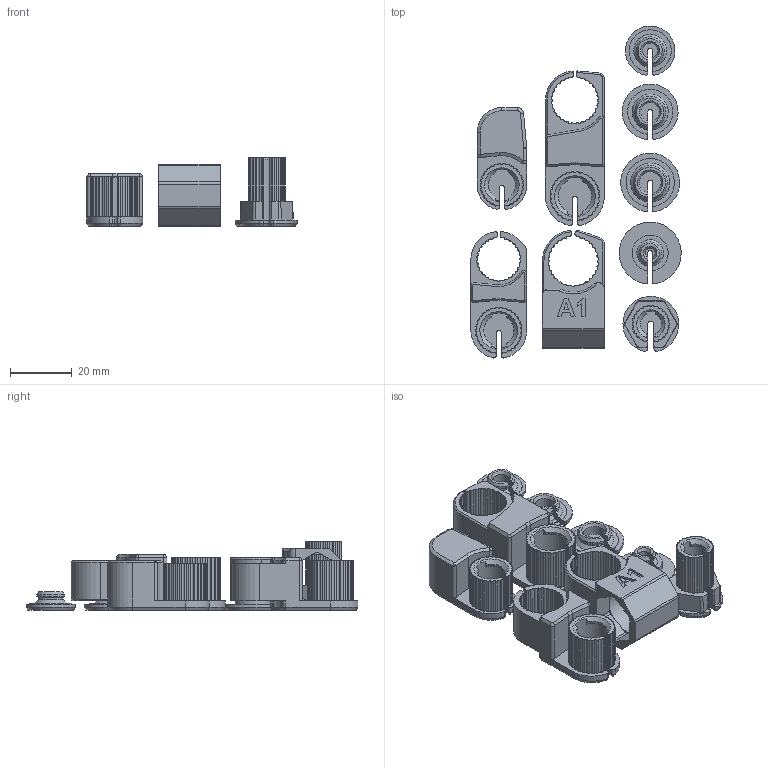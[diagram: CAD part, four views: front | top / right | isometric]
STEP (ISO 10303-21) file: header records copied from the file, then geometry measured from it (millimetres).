
FILE_DESCRIPTION (( 'STEP AP214' ), '1' );
FILE_NAME ('Robot Hand Finger A.STEP', '2024-06-24T13:49:49', ( '' ), ( '' ), 'SwSTEP 2.0', 'SolidWorks 2021', '' );
FILE_SCHEMA (( 'AUTOMOTIVE_DESIGN' ));
Length unit declared in the file: millimetre
Products named in the file (10): Finger A4; Robot Hand Finger A; Cover A0; Finger A3; Cover counterpart A0; Finger A2; Cover A3; Cover A1; Cover A2; Finger A1
Assembly tree (9 placements, depth 2):
  Robot Hand Finger A
    Finger A1
    Finger A2
    Finger A3
    Finger A4
    Cover counterpart A0
    Cover A1
    Cover A2
    Cover A3
    Cover A0
Bounding box: 67.85 x 107.15 x 22.1 mm (x, y, z)
Volume: 27517.4 mm3; surface area: 21762.7 mm2
Topology: 9 solids, 9 shells, 1075 faces, 2968 edges, 1939 vertices
Faces by surface type: cylinder 551, plane 354, cone 94, bspline 76
Full cylindrical faces by diameter (mm): 16 x1
Entity records: 38710 total; most frequent: CARTESIAN_POINT 10662, ORIENTED_EDGE 5926, DIRECTION 5850, EDGE_CURVE 2963, AXIS2_PLACEMENT_3D 2174, VERTEX_POINT 1938, LINE 1502, VECTOR 1502
